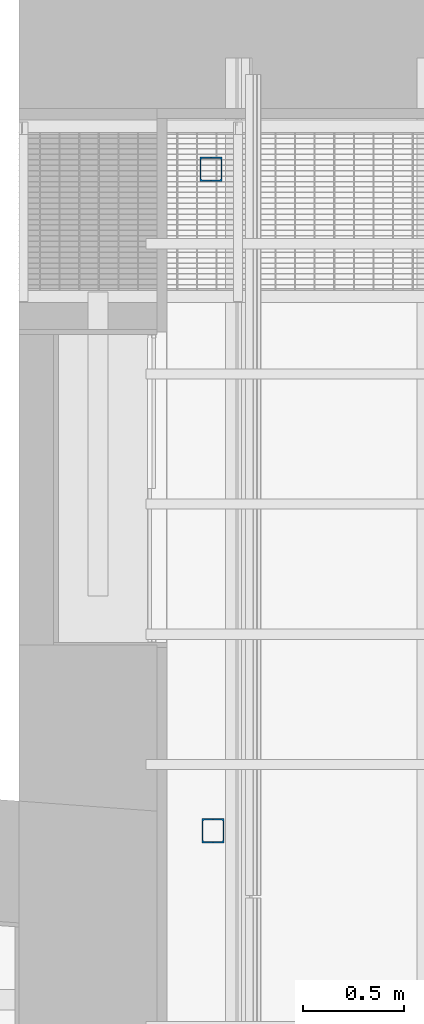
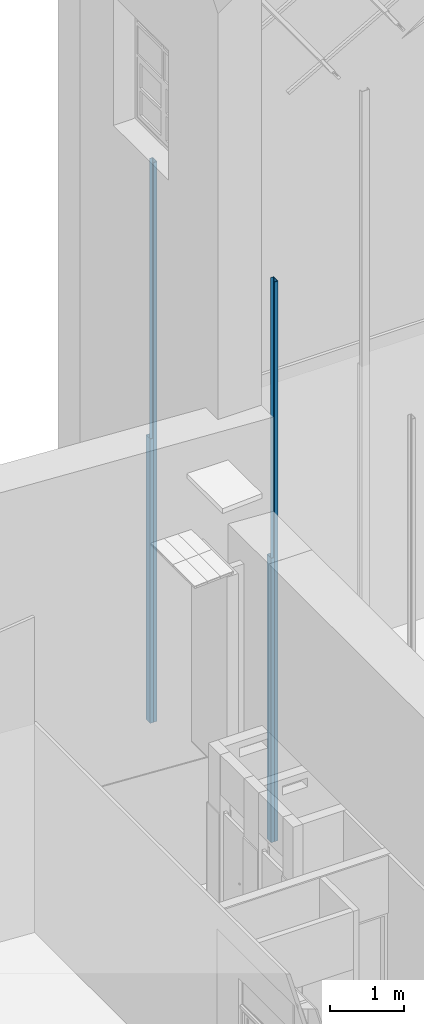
# One storey, part 5 of 75: 4 columns.
"""IFC2X3 building model written with IfcOpenShell, lengths in metres."""

from ifc_helpers import new_model, entity, si_unit, converted_unit, derived_unit, direction, frame, frame_2d, origin, place, context, subcontext, project, spatial, polyline, circle_curve, parameter, trimmed, segment, composite_curve, outline, extrude, source, transform, mapped, material, type_object, type_shapes, element, save


model = new_model("IFC2X3")

# Units and contexts
model_context = context("Model", 3, precision=1e-05, world=origin(), true_north=direction((6.12303176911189e-17, 1.0)))
body_context = subcontext(model_context, "Body", "Model", "MODEL_VIEW")
ifc_project = project(units=[si_unit("LENGTHUNIT", "METRE"), si_unit("AREAUNIT", "SQUARE_METRE"), si_unit("VOLUMEUNIT", "CUBIC_METRE"), converted_unit("PLANEANGLEUNIT", "DEGREE", entity("IfcRatioMeasure", 0.0174532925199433), si_unit("PLANEANGLEUNIT", "RADIAN"), dimensions=[0, 0, 0, 0, 0, 0, 0]), si_unit("MASSUNIT", "GRAM", prefix="KILO"), derived_unit("MASSDENSITYUNIT", [(si_unit("MASSUNIT", "GRAM", prefix="KILO"), 1), (si_unit("LENGTHUNIT", "METRE"), -3)]), derived_unit("MOMENTOFINERTIAUNIT", [(si_unit("LENGTHUNIT", "METRE"), 4)]), si_unit("TIMEUNIT", "SECOND"), si_unit("FREQUENCYUNIT", "HERTZ"), si_unit("THERMODYNAMICTEMPERATUREUNIT", "DEGREE_CELSIUS"), derived_unit("THERMALTRANSMITTANCEUNIT", [(si_unit("MASSUNIT", "GRAM", prefix="KILO"), 1), (si_unit("THERMODYNAMICTEMPERATUREUNIT", "KELVIN"), -1), (si_unit("TIMEUNIT", "SECOND"), -3)]), derived_unit("VOLUMETRICFLOWRATEUNIT", [(si_unit("LENGTHUNIT", "METRE"), 3), (si_unit("TIMEUNIT", "SECOND"), -1)]), si_unit("ELECTRICCURRENTUNIT", "AMPERE"), si_unit("ELECTRICVOLTAGEUNIT", "VOLT"), si_unit("POWERUNIT", "WATT"), si_unit("FORCEUNIT", "NEWTON", prefix="KILO"), si_unit("ILLUMINANCEUNIT", "LUX"), si_unit("LUMINOUSFLUXUNIT", "LUMEN"), si_unit("LUMINOUSINTENSITYUNIT", "CANDELA"), derived_unit("USERDEFINED", [(si_unit("MASSUNIT", "GRAM", prefix="KILO"), -1), (si_unit("LENGTHUNIT", "METRE"), -2), (si_unit("TIMEUNIT", "SECOND"), 3), (si_unit("LUMINOUSFLUXUNIT", "LUMEN"), 1)]), derived_unit("LINEARVELOCITYUNIT", [(si_unit("LENGTHUNIT", "METRE"), 1), (si_unit("TIMEUNIT", "SECOND"), -1)]), si_unit("PRESSUREUNIT", "PASCAL"), derived_unit("USERDEFINED", [(si_unit("LENGTHUNIT", "METRE"), -2), (si_unit("MASSUNIT", "GRAM", prefix="KILO"), 1), (si_unit("TIMEUNIT", "SECOND"), -2)]), derived_unit("LINEARFORCEUNIT", [(si_unit("MASSUNIT", "GRAM", prefix="KILO"), 1), (si_unit("LENGTHUNIT", "METRE"), 1), (si_unit("TIMEUNIT", "SECOND"), -2), (si_unit("LENGTHUNIT", "METRE"), -1)]), derived_unit("PLANARFORCEUNIT", [(si_unit("MASSUNIT", "GRAM", prefix="KILO"), 1), (si_unit("LENGTHUNIT", "METRE"), 1), (si_unit("TIMEUNIT", "SECOND"), -2), (si_unit("LENGTHUNIT", "METRE"), -2)])], contexts=[model_context])

# Site, building, storey
site_placement = place(None, origin())
site = spatial("IfcSite", under=ifc_project, at=site_placement, Name="Superficie", CompositionType="ELEMENT")
building_placement = place(site_placement, origin())
building = spatial("IfcBuilding", under=site, at=building_placement, Name="Telegestiones", CompositionType="ELEMENT")
storey_placement = place(building_placement, origin())
storey = spatial("IfcBuildingStorey", under=building, at=storey_placement, Name="Nivel 0_NPT", CompositionType="ELEMENT", Elevation=0.0)

# Columns
ifc_material = material(Name="Metal - Acero - 345 MPa")
column_type_1 = type_object("IfcColumnType", Name="UPE - Canales de ala paralela - Pilar:UPE 120", PredefinedType="COLUMN", material=ifc_material)
shared_shape_1 = source(origin(), body_context, "Body", "SweptSolid", [
    extrude(outline(composite_curve([segment(polyline([(-0.0600000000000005, -0.0264), (0.0599999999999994, -0.0264)]), True, "CONTINUOUS"), segment(polyline([(0.0599999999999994, -0.0264), (0.0599999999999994, 0.0286)]), True, "CONTINUOUS"), segment(polyline([(0.0599999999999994, 0.0286), (0.0540000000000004, 0.0286)]), True, "CONTINUOUS"), segment(polyline([(0.0540000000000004, 0.0286), (0.0540000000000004, -0.00939999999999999)]), True, "CONTINUOUS"), segment(trimmed(circle_curve(frame_2d((0.0420000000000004, -0.00939999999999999), x_axis=(1.0, 0.0)), 0.012), [parameter(270.0)], [parameter(0.0)], True, "PARAMETER"), False, "CONTINUOUS"), segment(polyline([(0.0420000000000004, -0.0214), (-0.0419999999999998, -0.0214)]), True, "CONTINUOUS"), segment(trimmed(circle_curve(frame_2d((-0.0419999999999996, -0.00939999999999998), x_axis=(0.0, -1.0)), 0.012), [parameter(270.0)], [parameter(0.0)], True, "PARAMETER"), False, "CONTINUOUS"), segment(polyline([(-0.0539999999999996, -0.00939999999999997), (-0.0539999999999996, 0.0286)]), True, "CONTINUOUS"), segment(polyline([(-0.0539999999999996, 0.0286), (-0.0600000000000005, 0.0286)]), True, "CONTINUOUS"), segment(polyline([(-0.0600000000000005, 0.0286), (-0.0600000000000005, -0.0264)]), True, "CONTINUOUS")], self_intersect=False)), frame((0.00660000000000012, 0.0, 0.0), z_axis=(0.0, 0.0, 1.0), x_axis=(0.0, -1.0, 0.0)), (0.0, 0.0, 1.0), 9.27),
])
type_shapes(column_type_1, [shared_shape_1])
for number, where, z_axis, x_axis, name in (
    (1, (6.33701262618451, 13.4436072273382, 0.0), (0.0, 0.0, 1.0), (-1.0, 0.0, 0.0), "UPE - Canales de ala paralela - Pilar:UPE 120"),
    (2, (6.34701262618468, 10.1786072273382, 0.0), (0.0, 0.0, 1.0), (-1.0, 0.0, 0.0), "UPE - Canales de ala paralela - Pilar:UPE 120"),
):
    element("IfcColumn", number, at=place(storey_placement, frame(where, z_axis=z_axis, x_axis=x_axis)), inside=storey, type_object=column_type_1, Name=name, ObjectType="UPE - Canales de ala paralela - Pilar:UPE 120", context=body_context, shape_type="MappedRepresentation", body=[
        mapped(shared_shape_1, transform((0.0, 0.0, 0.0), scale=1.0)),
    ])
column_type_2 = type_object("IfcColumnType", Name="UPE - Canales de ala paralela - Pilar:UPE 120", PredefinedType="COLUMN", material=ifc_material)
shared_shape_2 = source(origin(), body_context, "Body", "SweptSolid", [
    extrude(outline(composite_curve([segment(polyline([(-0.0599999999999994, -0.0264), (0.0600000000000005, -0.0264)]), True, "CONTINUOUS"), segment(polyline([(0.0600000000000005, -0.0264), (0.0600000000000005, 0.0286)]), True, "CONTINUOUS"), segment(polyline([(0.0600000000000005, 0.0286), (0.0539999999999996, 0.0286)]), True, "CONTINUOUS"), segment(polyline([(0.0539999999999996, 0.0286), (0.0539999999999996, -0.00939999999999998)]), True, "CONTINUOUS"), segment(trimmed(circle_curve(frame_2d((0.0419999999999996, -0.0094), x_axis=(1.0, 0.0)), 0.012), [parameter(270.0)], [parameter(0.0)], True, "PARAMETER"), False, "CONTINUOUS"), segment(polyline([(0.0419999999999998, -0.0214), (-0.0420000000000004, -0.0214)]), True, "CONTINUOUS"), segment(trimmed(circle_curve(frame_2d((-0.0420000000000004, -0.00940000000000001), x_axis=(0.0, -1.0)), 0.012), [parameter(270.0)], [parameter(0.0)], True, "PARAMETER"), False, "CONTINUOUS"), segment(polyline([(-0.0540000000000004, -0.0094), (-0.0540000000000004, 0.0286)]), True, "CONTINUOUS"), segment(polyline([(-0.0540000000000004, 0.0286), (-0.0599999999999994, 0.0286)]), True, "CONTINUOUS"), segment(polyline([(-0.0599999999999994, 0.0286), (-0.0599999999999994, -0.0264)]), True, "CONTINUOUS")], self_intersect=False)), frame((0.00660000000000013, 0.0, 0.0), z_axis=(0.0, 0.0, 1.0), x_axis=(0.0, -1.0, 0.0)), (0.0, 0.0, 1.0), 4.71),
])
type_shapes(column_type_2, [shared_shape_2])
for number, where, name in (
    (3, (6.26661262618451, 13.4436072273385, 0.0), "UPE - Canales de ala paralela - Pilar:UPE 120"),
    (4, (6.27661262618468, 10.1786072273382, 0.0), "UPE - Canales de ala paralela - Pilar:UPE 120"),
):
    element("IfcColumn", number, at=place(storey_placement, frame(where)), inside=storey, type_object=column_type_2, Name=name, ObjectType="UPE - Canales de ala paralela - Pilar:UPE 120", context=body_context, shape_type="MappedRepresentation", body=[
        mapped(shared_shape_2, transform((0.0, 0.0, 0.0), scale=1.0)),
    ])

save(model, "model.ifc")
